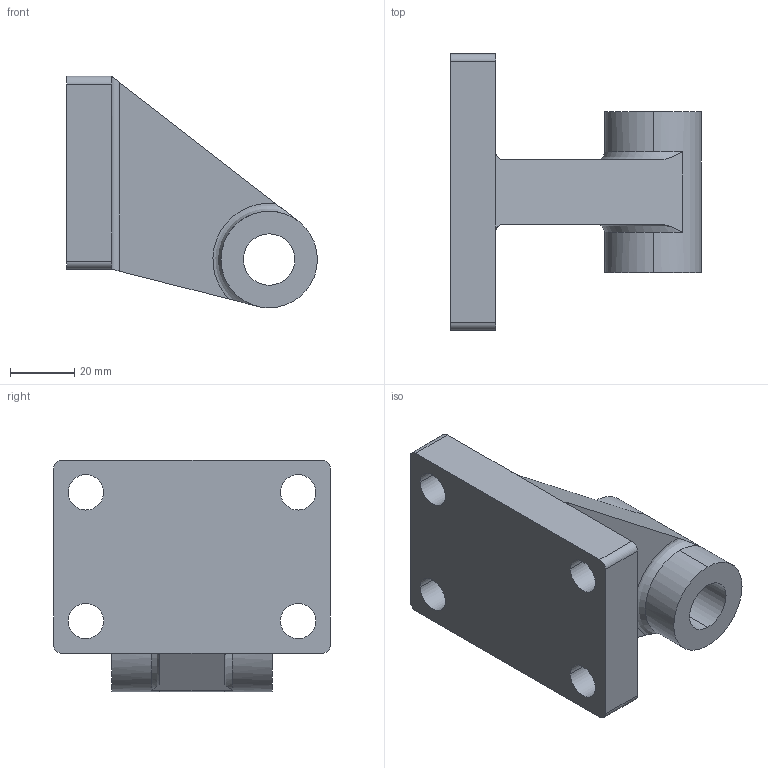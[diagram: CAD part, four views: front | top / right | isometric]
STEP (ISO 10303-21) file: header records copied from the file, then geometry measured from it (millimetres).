
FILE_DESCRIPTION((''),'2;1');
FILE_NAME('1825805279','2015-11-23T',('prr2cob'),(''),'PRO/ENGINEER BY PARAMETRIC TECHNOLOGY CORPORATION, 2012421','PRO/ENGINEER BY PARAMETRIC TECHNOLOGY CORPORATION, 2012421','');
FILE_SCHEMA(('CONFIG_CONTROL_DESIGN','SHAPE_APPEARANCE_LAYERS_GROUPS'));
Length unit declared in the file: millimetre
Products named in the file (1): 1825805279
Bounding box: 78 x 86 x 72 mm (x, y, z)
Volume: 130294.2 mm3; surface area: 27844.2 mm2
Topology: 1 solids, 1 shells, 46 faces, 118 edges, 78 vertices
Faces by surface type: cylinder 27, plane 17, torus 2
Entity records: 1616 total; most frequent: CARTESIAN_POINT 382, DIRECTION 258, ORIENTED_EDGE 236, EDGE_CURVE 118, AXIS2_PLACEMENT_3D 102, VERTEX_POINT 78, EDGE_LOOP 60, CIRCLE 56
